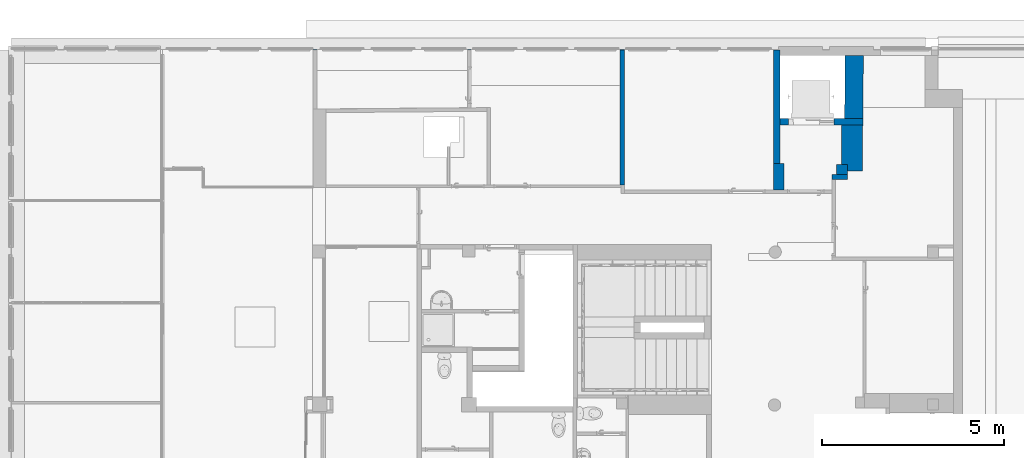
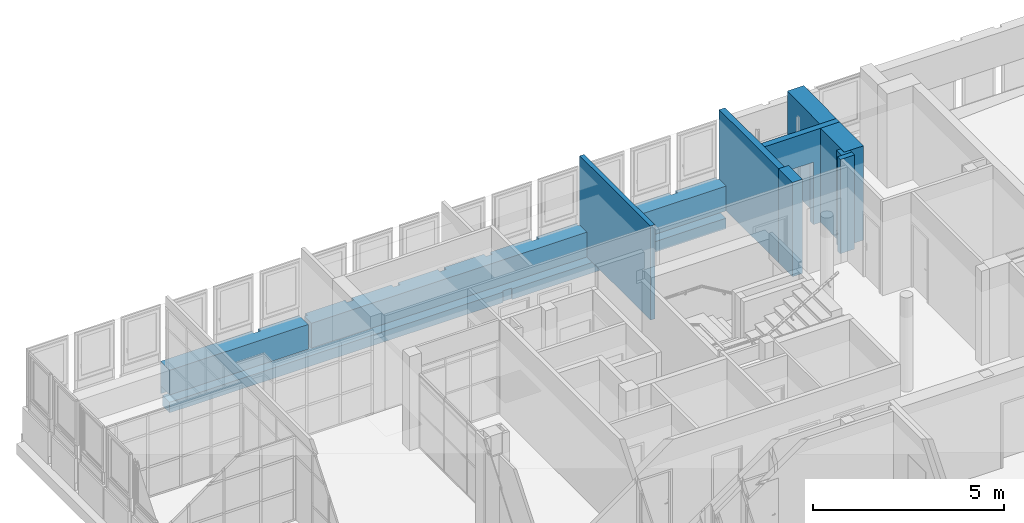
# One storey, part 80 of 97: 9 walls, 1 opening.
"""IFC4 building model written with IfcOpenShell, lengths in metres."""

from ifc_helpers import new_model, entity, si_unit, converted_unit, derived_unit, direction, frame, origin, place, context, subcontext, project, spatial, indexed_curve, outline, extrude, polygons, material, layer, layer_set, type_object, element, save


model = new_model("IFC4")

# Units and contexts
model_context = context("Model", 3, precision=1e-05, world=origin(), true_north=direction((6.12303176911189e-17, 1.0)))
body_context = subcontext(model_context, "Body", "Model", "MODEL_VIEW")
ifc_project = project(units=[si_unit("LENGTHUNIT", "METRE"), si_unit("AREAUNIT", "SQUARE_METRE"), si_unit("VOLUMEUNIT", "CUBIC_METRE"), converted_unit("PLANEANGLEUNIT", "DEGREE", entity("IfcRatioMeasure", 0.0174532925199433), si_unit("PLANEANGLEUNIT", "RADIAN"), dimensions=[0, 0, 0, 0, 0, 0, 0]), si_unit("MASSUNIT", "GRAM", prefix="KILO"), derived_unit("MASSDENSITYUNIT", [(si_unit("MASSUNIT", "GRAM", prefix="KILO"), 1), (si_unit("LENGTHUNIT", "METRE"), -3)]), derived_unit("MOMENTOFINERTIAUNIT", [(si_unit("LENGTHUNIT", "METRE"), 4)]), si_unit("TIMEUNIT", "SECOND"), si_unit("FREQUENCYUNIT", "HERTZ"), si_unit("THERMODYNAMICTEMPERATUREUNIT", "DEGREE_CELSIUS"), derived_unit("THERMALTRANSMITTANCEUNIT", [(si_unit("MASSUNIT", "GRAM", prefix="KILO"), 1), (si_unit("THERMODYNAMICTEMPERATUREUNIT", "KELVIN"), -1), (si_unit("TIMEUNIT", "SECOND"), -3)]), derived_unit("VOLUMETRICFLOWRATEUNIT", [(si_unit("LENGTHUNIT", "METRE"), 3), (si_unit("TIMEUNIT", "SECOND"), -1)]), si_unit("ELECTRICCURRENTUNIT", "AMPERE"), si_unit("ELECTRICVOLTAGEUNIT", "VOLT"), si_unit("POWERUNIT", "WATT"), si_unit("FORCEUNIT", "NEWTON", prefix="KILO"), si_unit("ILLUMINANCEUNIT", "LUX"), si_unit("LUMINOUSFLUXUNIT", "LUMEN"), si_unit("LUMINOUSINTENSITYUNIT", "CANDELA"), derived_unit("USERDEFINED", [(si_unit("MASSUNIT", "GRAM", prefix="KILO"), -1), (si_unit("LENGTHUNIT", "METRE"), -2), (si_unit("TIMEUNIT", "SECOND"), 3), (si_unit("LUMINOUSFLUXUNIT", "LUMEN"), 1)]), derived_unit("LINEARVELOCITYUNIT", [(si_unit("LENGTHUNIT", "METRE"), 1), (si_unit("TIMEUNIT", "SECOND"), -1)]), si_unit("PRESSUREUNIT", "PASCAL"), derived_unit("USERDEFINED", [(si_unit("LENGTHUNIT", "METRE"), -2), (si_unit("MASSUNIT", "GRAM", prefix="KILO"), 1), (si_unit("TIMEUNIT", "SECOND"), -2)]), derived_unit("LINEARFORCEUNIT", [(si_unit("MASSUNIT", "GRAM", prefix="KILO"), 1), (si_unit("LENGTHUNIT", "METRE"), 1), (si_unit("TIMEUNIT", "SECOND"), -2), (si_unit("LENGTHUNIT", "METRE"), -1)]), derived_unit("PLANARFORCEUNIT", [(si_unit("MASSUNIT", "GRAM", prefix="KILO"), 1), (si_unit("LENGTHUNIT", "METRE"), 1), (si_unit("TIMEUNIT", "SECOND"), -2), (si_unit("LENGTHUNIT", "METRE"), -2)])], contexts=[model_context])

# Site, building, storey
site_placement = place(None, origin())
site = spatial("IfcSite", under=ifc_project, at=site_placement, Name="Default", CompositionType="ELEMENT")
building_placement = place(site_placement, origin())
building = spatial("IfcBuilding", under=site, at=building_placement, Name="HOTEL CONSULAIRE BOULOGNE SUR MER", CompositionType="ELEMENT")
storey_placement = place(building_placement, frame((0.0, 0.0, 3.62152697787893)))
storey = spatial("IfcBuildingStorey", under=building, at=storey_placement, Name="Niveau 1", CompositionType="ELEMENT", Elevation=3.62152697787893)

# Walls
ifc_material = material(Name="Mur par défaut", Category="Divers")
ifc_layer_1 = layer(ifc_material, 0.18, Name="Mur par défaut", Category="Divers")
ifc_layer_set_1 = layer_set([ifc_layer_1], Name="Mur de base:Générique - Int.180")
wall_type_1 = type_object("IfcWallType", Name="Mur de base:Générique - Int.180", PredefinedType="NOTDEFINED", material=ifc_layer_set_1)
wall_1_placement = place(storey_placement, frame((7.21898026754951, -10.0856685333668, 0.0), z_axis=(0.0, 0.0, 1.0), x_axis=(0.0, -1.0, 0.0)))
element("IfcWall", 1, at=wall_1_placement, inside=storey, type_object=wall_type_1, material=ifc_layer_set_1, Name="Mur de base:Générique - Int.180", ObjectType="Mur de base:Générique - Int.180", PredefinedType="NOTDEFINED", context=body_context, shape_type="Tessellation", body=[
    polygons([(3.11768673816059, -0.09, 3.01021454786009), (0.0, -0.0899999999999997, 3.01021454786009), (0.0, -0.0899999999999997, 5.41433564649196e-16), (3.11768673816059, -0.09, 5.41433564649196e-16), (-2.16573425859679e-15, 0.0900000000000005, 3.01021454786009), (1.88512277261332, 0.0900000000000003, 3.01021454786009), (2.06512277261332, 0.0900000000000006, 3.01021454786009), (3.11768673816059, 0.0900000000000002, 3.01021454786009), (3.11768673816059, 0.0900000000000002, 5.41433564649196e-16), (2.06512277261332, 0.0900000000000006, 5.41433564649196e-16), (1.88512277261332, 0.0900000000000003, 5.41433564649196e-16), (-2.16573425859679e-15, 0.0900000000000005, 5.41433564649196e-16)], [[[2, 3, 4, 1]], [[9, 10, 11, 12, 5, 6, 7, 8]], [[1, 4, 9, 8]], [[2, 1, 8, 7, 6, 5]], [[3, 2, 5, 12]], [[10, 9, 4, 3, 12, 11]]], closed=True),
])
wall_2_placement = place(storey_placement, frame((9.58796228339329, -12.0607913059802, 0.0), z_axis=(0.0, 0.0, 1.0), x_axis=(-1.0, 0.0, 0.0)))
element("IfcWall", 2, at=wall_2_placement, inside=storey, type_object=wall_type_1, material=ifc_layer_set_1, Name="Mur de base:Générique - Int.180", ObjectType="Mur de base:Générique - Int.180", PredefinedType="NOTDEFINED", context=body_context, shape_type="Tessellation", body=[
    polygons([(2.27898201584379, -0.0900000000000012, -5.41433564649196e-16), (2.04798201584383, -0.0900000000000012, -5.41433564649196e-16), (2.04798201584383, 0.089999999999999, -5.41433564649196e-16), (2.27898201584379, 0.089999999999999, -5.41433564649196e-16), (2.27898201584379, -0.0900000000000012, 3.01021454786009), (0.500023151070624, -0.0900000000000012, 3.01021454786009), (1.3051424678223e-17, -0.0900000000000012, 3.01021454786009), (1.3051424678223e-17, -0.0900000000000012, -5.41433564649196e-16), (0.500023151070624, -0.0900000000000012, -5.41433564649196e-16), (0.792975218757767, -0.089999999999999, 0.0), (0.792975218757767, -0.089999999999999, 2.0), (2.04798201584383, -0.0900000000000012, 2.0), (0.00173218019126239, 0.089999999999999, 3.01021454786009), (2.27898201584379, 0.089999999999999, 3.01021454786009), (2.04798201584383, 0.089999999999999, 2.0), (0.792975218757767, 0.0900000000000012, 2.0), (0.792975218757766, 0.0900000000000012, -5.41433564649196e-16), (0.581759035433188, 0.089999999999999, -5.41433564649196e-16), (0.00173218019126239, 0.089999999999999, -5.41433564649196e-16)], [[[2, 3, 4, 1]], [[12, 11, 16, 15]], [[9, 8, 19, 18, 17, 10]], [[7, 8, 9, 10, 11, 12, 2, 1, 5, 6]], [[4, 3, 15, 16, 17, 18, 19, 13, 14]], [[6, 5, 14, 13, 7]], [[1, 4, 14, 5]], [[11, 10, 17, 16]], [[2, 12, 15, 3]], [[13, 19, 8, 7]]], closed=True),
])

# Wall, opening
ifc_layer_2 = layer(ifc_material, 0.13, Name="Mur par défaut", Category="Divers")
ifc_layer_set_2 = layer_set([ifc_layer_2], Name="Mur de base:Générique - Int. 130 mm")
wall_type_2 = type_object("IfcWallType", Name="Mur de base:Générique - Int. 130 mm", PredefinedType="NOTDEFINED", material=ifc_layer_set_2)
wall_3_placement = place(storey_placement, frame((2.9792977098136, -13.7909141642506, 0.0), z_axis=(0.0, 0.0, 1.0), x_axis=(0.0, 1.0, 0.0)))
wall_3 = element("IfcWall", 3, at=wall_3_placement, inside=storey, type_object=wall_type_2, material=ifc_layer_set_2, Name="Mur de base:Générique - Int. 130 mm", ObjectType="Mur de base:Générique - Int. 130 mm", PredefinedType="NOTDEFINED", context=body_context, shape_type="Tessellation", body=[
    polygons([(3.70524563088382, -0.0650000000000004, 3.0102145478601), (0.0, -0.0650000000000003, 3.0102145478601), (0.0, -0.0650000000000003, 8.66293703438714e-15), (3.33558999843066, -0.0650000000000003, 8.66293703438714e-15), (3.33558999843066, -0.0650000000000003, 0.791612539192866), (3.70524563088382, -0.0650000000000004, 0.791612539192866), (2.16573425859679e-15, 0.0649999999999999, 3.0102145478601), (3.70524563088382, 0.0649999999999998, 3.0102145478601), (3.70524563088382, 0.0649999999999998, 0.791612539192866), (3.33558999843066, 0.0649999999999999, 0.791612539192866), (3.33558999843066, 0.0649999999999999, 8.66293703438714e-15), (2.16573425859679e-15, 0.0649999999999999, -5.41433564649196e-16), (2.16573425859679e-15, 0.0350000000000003, 3.0102145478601), (2.16573425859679e-15, 0.0350000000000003, 8.66293703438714e-15)], [[[2, 3, 4, 5, 6, 1]], [[10, 11, 12, 7, 8, 9]], [[14, 3, 2, 13, 7, 12]], [[2, 1, 8, 7, 13]], [[5, 4, 11, 10]], [[1, 6, 9, 8]], [[6, 5, 10, 9]], [[11, 4, 3, 14, 12]]], closed=True),
])
opening_placement = place(wall_3_placement, origin())
element("IfcOpeningElement", 4, at=opening_placement, cuts=wall_3, Name="Mur de base:Générique - Int. 130 mm", ObjectType="Opening", PredefinedType="OPENING", context=body_context, shape_type="SweptSolid", body=[
    extrude(outline(indexed_curve([(-0.184827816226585, -0.413306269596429), (0.184827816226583, -0.413306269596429), (0.184827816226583, 0.413306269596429), (-0.184827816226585, 0.413306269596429), (-0.184827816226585, -0.413306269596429)], self_intersect=False)), frame((3.52041781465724, 0.0650000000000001, 0.378306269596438), z_axis=(0.0, -1.0, 0.0), x_axis=(-1.0, 0.0, 0.0)), (0.0, 0.0, 1.0), 0.13),
])

# Walls
ifc_layer_3 = layer(ifc_material, 0.15, Name="Mur par défaut", Category="Divers")
ifc_layer_set_3 = layer_set([ifc_layer_3], Name="Mur de base:Générique - Int. 150 mm")
wall_type_3 = type_object("IfcWallType", Name="Mur de base:Générique - Int. 150 mm", PredefinedType="NOTDEFINED", material=ifc_layer_set_3)
wall_4_placement = place(storey_placement, frame((8.73563829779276, -13.5765186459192, 0.0)))
element("IfcWall", 5, at=wall_4_placement, inside=storey, type_object=wall_type_3, material=ifc_layer_set_3, Name="Mur de base:Générique - Int. 150 mm", ObjectType="Mur de base:Générique - Int. 150 mm", PredefinedType="NOTDEFINED", context=body_context, shape_type="Tessellation", body=[
    polygons([(0.433714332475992, -0.0750000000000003, 3.01321454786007), (0.0, -0.0750000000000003, 3.01321454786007), (0.0, -0.0750000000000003, 3.0102145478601), (0.0, -0.0750000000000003, 5.41433564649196e-16), (0.1, -0.0750000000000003, 5.41433564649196e-16), (0.433714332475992, -0.0750000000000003, 5.41433564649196e-16), (0.0, 0.0750000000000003, 3.01321454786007), (0.433714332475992, 0.0750000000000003, 3.01321454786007), (0.433714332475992, 0.0750000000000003, 3.0102145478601), (0.433714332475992, 0.0750000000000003, 5.41433564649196e-16), (0.133714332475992, 0.0750000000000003, 5.41433564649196e-16), (0.0, 0.0750000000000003, 5.41433564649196e-16)], [[[3, 4, 5, 6, 1, 2]], [[9, 10, 11, 12, 7, 8]], [[2, 1, 8, 7]], [[7, 12, 4, 3, 2]], [[1, 6, 10, 9, 8]], [[11, 10, 6, 5, 4, 12]]], closed=True),
])
ifc_layer_4 = layer(ifc_material, 0.3, Name="Mur par défaut", Category="Divers")
ifc_layer_set_4 = layer_set([ifc_layer_4], Name="Mur de base:Générique - Int. 300 mm")
wall_type_4 = type_object("IfcWallType", Name="Mur de base:Générique - Int. 300 mm", PredefinedType="NOTDEFINED", material=ifc_layer_set_4)
wall_5_placement = place(storey_placement, frame((7.2789802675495, -13.2033552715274, 0.0), z_axis=(0.0, 0.0, 1.0), x_axis=(0.0, -1.0, 0.0)))
element("IfcWall", 6, at=wall_5_placement, inside=storey, type_object=wall_type_4, material=ifc_layer_set_4, Name="Mur de base:Générique - Int. 300 mm", ObjectType="Mur de base:Générique - Int. 300 mm", PredefinedType="NOTDEFINED", context=body_context, shape_type="Tessellation", body=[
    polygons([(0.727428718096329, -0.15, 3.01021454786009), (2.16573425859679e-15, -0.15, 3.01021454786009), (2.16573425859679e-15, -0.15, 5.41433564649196e-16), (0.727428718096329, -0.15, 5.41433564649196e-16), (0.0, 0.15, 3.01021454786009), (0.727428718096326, 0.15, 3.01021454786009), (0.727428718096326, 0.15, 5.41433564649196e-16), (0.0, 0.15, 5.41433564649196e-16), (0.0, 0.0299999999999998, 3.01021454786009), (0.0, 0.0299999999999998, 5.41433564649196e-16)], [[[2, 3, 4, 1]], [[6, 7, 8, 5]], [[2, 1, 6, 5, 9]], [[3, 2, 9, 5, 8, 10]], [[4, 7, 6, 1]], [[10, 8, 7, 4, 3]]], closed=True),
])
wall_6_placement = place(storey_placement, frame((9.01935263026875, -13.5015186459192, 0.0), z_axis=(0.0, 0.0, 1.0), x_axis=(0.0, 1.0, 0.0)))
element("IfcWall", 7, at=wall_6_placement, inside=storey, type_object=wall_type_4, material=ifc_layer_set_4, Name="Mur de base:Générique - Int. 300 mm", ObjectType="Mur de base:Générique - Int. 300 mm", PredefinedType="NOTDEFINED", context=body_context, shape_type="Tessellation", body=[
    polygons([(0.269999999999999, -0.150000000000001, 3.01021454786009), (0.0923183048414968, -0.150000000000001, 3.01021454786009), (0.0, -0.150000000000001, 3.01021454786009), (0.0, -0.150000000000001, 0.0), (0.0923183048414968, -0.150000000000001, 0.0), (0.269999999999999, -0.150000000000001, 0.0), (0.0, 0.149999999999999, 3.01021454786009), (0.269999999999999, 0.149999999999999, 3.01021454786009), (0.269999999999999, 0.149999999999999, 0.0), (0.0, 0.149999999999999, 0.0), (0.269999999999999, 0.0235494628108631, 3.0102145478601), (0.269999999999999, 0.0235494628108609, 0.0)], [[[2, 3, 4, 5, 6, 1]], [[8, 9, 10, 7]], [[1, 6, 12, 9, 8, 11]], [[2, 1, 11, 8, 7, 3]], [[10, 4, 3, 7]], [[5, 4, 10, 9, 12, 6]]], closed=True),
])
ifc_layer_5 = layer(ifc_material, 0.48, Name="Mur par défaut", Category="Divers")
ifc_layer_set_5 = layer_set([ifc_layer_5], Name="Mur de base:Générique - Ext.480 mm")
wall_type_5 = type_object("IfcWallType", Name="Mur de base:Générique - Ext.480 mm", PredefinedType="NOTDEFINED", material=ifc_layer_set_5)
wall_7_placement = place(storey_placement, frame((-9.69962464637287, -10.2153241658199, -0.570400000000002)))
element("IfcWall", 8, at=wall_7_placement, inside=storey, type_object=wall_type_5, material=ifc_layer_set_5, Name="Mur de base:Générique - Ext.480 mm", ObjectType="Mur de base:Générique - Ext.480 mm", PredefinedType="NOTDEFINED", context=body_context, shape_type="Tessellation", body=[
    polygons([(16.8286049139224, -0.24, 0.0), (16.8286049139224, -0.24, 0.335400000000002), (10.3561248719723, -0.24, 0.335400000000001), (10.3561248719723, -0.24, 0.0), (16.8286049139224, 0.140691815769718, 0.0), (16.8286049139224, 0.140691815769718, 0.335400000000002), (1.33649330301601e-15, -0.24, 0.335400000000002), (2.53626173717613e-16, -0.24, 0.0), (10.0861248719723, -0.24, 0.0), (10.0861248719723, -0.24, 0.335400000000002), (1.99470641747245e-15, 0.140691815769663, 0.0), (4.19564398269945, 0.140691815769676, 0.0), (4.53564398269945, 0.140691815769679, 0.0), (8.18864398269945, 0.140691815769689, 0.0), (8.52864398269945, 0.140691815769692, 0.0), (10.3561248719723, -0.19561057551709, 0.0), (10.0861248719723, -0.19561057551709, 0.0), (1.99470641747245e-15, 0.140691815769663, 0.335400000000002), (10.3561248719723, -0.19561057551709, 0.335400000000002), (10.0861248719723, -0.19561057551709, 0.335400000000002)], [[[3, 4, 1, 2]], [[7, 8, 9, 10]], [[17, 16, 19, 20]], [[2, 1, 5, 6]], [[17, 20, 10, 9]], [[9, 8, 11, 12, 13, 14, 15, 5, 1, 4, 16, 17]], [[8, 7, 18, 11]], [[16, 4, 3, 19]], [[6, 5, 15, 14, 13, 12, 11, 18]], [[20, 19, 3, 2, 6, 18, 7, 10]]], closed=True),
    polygons([(16.8286049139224, -0.24, 0.570400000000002), (16.8286049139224, -0.24, 1.36201253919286), (4.28985146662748, -0.24, 1.36201253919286), (4.28985146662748, -0.24, 0.570400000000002), (4.37544981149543, 0.24, 0.34), (4.37544981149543, 0.24, 1.36201253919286), (5.58425312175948, 0.239999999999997, 1.36201253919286), (5.58425312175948, 0.239999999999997, 0.34), (5.77544981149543, 0.24, 0.34), (5.77544981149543, 0.24, 1.36201253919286), (6.98425312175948, 0.24, 1.36201253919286), (6.98425312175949, 0.24, 0.34), (7.17544981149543, 0.24, 0.34), (7.17544981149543, 0.24, 1.36201253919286), (8.38425312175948, 0.24, 1.36201253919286), (8.38425312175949, 0.24, 0.34), (8.57544981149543, 0.24, 0.34), (8.57544981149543, 0.24, 1.36201253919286), (9.78160466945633, 0.24, 1.36201253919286), (9.78160466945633, 0.24, 0.34), (9.97280135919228, 0.239999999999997, 0.34), (9.97280135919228, 0.239999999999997, 1.36201253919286), (11.1816046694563, 0.24, 1.36201253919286), (11.1816046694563, 0.24, 0.34), (11.3728013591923, 0.24, 0.34), (11.3728013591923, 0.24, 1.36201253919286), (12.5816046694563, 0.24, 1.36201253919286), (12.5816046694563, 0.24, 0.34), (12.7728013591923, 0.24, 0.34), (12.7728013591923, 0.24, 1.36201253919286), (13.9816046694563, 0.24, 1.36201253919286), (13.9816046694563, 0.24, 0.34), (14.1728013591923, 0.24, 0.34), (14.1728013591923, 0.24, 1.36201253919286), (15.3816046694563, 0.24, 1.36201253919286), (15.3816046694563, 0.24, 0.34), (5.58030689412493, 0.213691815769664, 0.34), (4.37939603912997, 0.213691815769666, 0.34), (6.98030689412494, 0.213691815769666, 0.34), (5.77939603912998, 0.213691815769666, 0.34), (8.38030689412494, 0.213691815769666, 0.34), (7.17939603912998, 0.213691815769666, 0.34), (9.77765844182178, 0.213691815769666, 0.34), (8.57939603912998, 0.213691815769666, 0.34), (11.1776584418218, 0.213691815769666, 0.34), (9.97674758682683, 0.213691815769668, 0.34), (12.5776584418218, 0.213691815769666, 0.34), (11.3767475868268, 0.213691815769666, 0.34), (13.9776584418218, 0.213691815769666, 0.34), (12.7767475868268, 0.213691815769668, 0.34), (15.3776584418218, 0.213691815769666, 0.34), (14.1767475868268, 0.213691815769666, 0.34), (4.37985146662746, 0.129655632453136, 1.36201253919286), (4.37985146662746, 0.129655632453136, 0.570400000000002), (4.28985146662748, 0.129655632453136, 0.570400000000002), (4.28985146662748, 0.129655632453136, 1.36201253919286), (16.7776584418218, 0.213691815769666, 0.570400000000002), (15.5767475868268, 0.213691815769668, 0.570400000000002), (15.5767475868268, 0.213691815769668, 0.34), (16.7776584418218, 0.213691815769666, 0.34), (15.3776584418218, 0.213691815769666, 0.570400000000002), (14.1767475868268, 0.213691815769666, 0.570400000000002), (13.9776584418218, 0.213691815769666, 0.570400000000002), (12.7767475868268, 0.213691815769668, 0.570400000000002), (12.5776584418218, 0.213691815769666, 0.570400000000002), (11.3767475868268, 0.213691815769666, 0.570400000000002), (11.1776584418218, 0.213691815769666, 0.570400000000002), (9.97674758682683, 0.213691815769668, 0.570400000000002), (9.77765844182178, 0.213691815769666, 0.570400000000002), (8.57939603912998, 0.213691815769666, 0.570400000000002), (8.38030689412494, 0.213691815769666, 0.570400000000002), (7.17939603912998, 0.213691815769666, 0.570400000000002), (6.98030689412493, 0.213691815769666, 0.570400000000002), (5.77939603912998, 0.213691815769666, 0.570400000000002), (5.58030689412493, 0.213691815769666, 0.570400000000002), (4.37939603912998, 0.213691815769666, 0.570400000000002), (15.5728013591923, 0.24, 0.34), (15.5728013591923, 0.24, 1.36201253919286), (16.7816046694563, 0.24, 1.36201253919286), (16.7816046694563, 0.24, 0.34), (16.8286049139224, 0.129655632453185, 1.36201253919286), (16.8286049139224, 0.129655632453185, 0.570400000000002), (4.37985146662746, 0.210655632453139, 1.36201253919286), (16.7772030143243, 0.129655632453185, 1.36201253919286), (16.7772030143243, 0.210655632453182, 1.36201253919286), (15.5772030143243, 0.210655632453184, 1.36201253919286), (15.5772030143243, 0.129655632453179, 1.36201253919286), (15.3772030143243, 0.129655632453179, 1.36201253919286), (15.3772030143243, 0.210655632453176, 1.36201253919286), (14.1772030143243, 0.210655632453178, 1.36201253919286), (14.1772030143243, 0.129655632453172, 1.36201253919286), (13.9772030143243, 0.129655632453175, 1.36201253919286), (13.9772030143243, 0.210655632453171, 1.36201253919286), (12.7772030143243, 0.210655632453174, 1.36201253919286), (12.7772030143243, 0.129655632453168, 1.36201253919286), (12.5772030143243, 0.129655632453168, 1.36201253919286), (12.5772030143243, 0.210655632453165, 1.36201253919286), (11.3772030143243, 0.210655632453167, 1.36201253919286), (11.3772030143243, 0.129655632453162, 1.36201253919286), (11.1772030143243, 0.129655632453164, 1.36201253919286), (11.1772030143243, 0.210655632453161, 1.36201253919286), (9.9772030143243, 0.210655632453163, 1.36201253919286), (9.9772030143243, 0.129655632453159, 1.36201253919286), (9.77720301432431, 0.129655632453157, 1.36201253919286), (9.77720301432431, 0.210655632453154, 1.36201253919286), (8.57985146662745, 0.210655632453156, 1.36201253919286), (8.57985146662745, 0.129655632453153, 1.36201253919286), (8.37985146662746, 0.129655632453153, 1.36201253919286), (8.37985146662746, 0.21065563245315, 1.36201253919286), (7.17985146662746, 0.21065563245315, 1.36201253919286), (7.17985146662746, 0.129655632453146, 1.36201253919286), (6.97985146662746, 0.129655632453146, 1.36201253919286), (6.97985146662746, 0.210655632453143, 1.36201253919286), (5.77985146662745, 0.210655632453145, 1.36201253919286), (5.77985146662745, 0.129655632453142, 1.36201253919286), (5.57985146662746, 0.12965563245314, 1.36201253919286), (5.57985146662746, 0.210655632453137, 1.36201253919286), (4.37985146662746, 0.210655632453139, 0.570400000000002), (5.57985146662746, 0.210655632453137, 0.570400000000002), (5.57985146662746, 0.12965563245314, 0.570400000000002), (5.77985146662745, 0.129655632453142, 0.570400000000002), (5.77985146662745, 0.210655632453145, 0.570400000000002), (6.97985146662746, 0.210655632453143, 0.570400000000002), (6.97985146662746, 0.129655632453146, 0.570400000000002), (7.17985146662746, 0.129655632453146, 0.570400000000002), (7.17985146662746, 0.21065563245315, 0.570400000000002), (8.37985146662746, 0.21065563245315, 0.570400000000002), (8.37985146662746, 0.129655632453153, 0.570400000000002), (8.57985146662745, 0.129655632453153, 0.570400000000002), (8.57985146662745, 0.210655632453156, 0.570400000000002), (9.77720301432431, 0.210655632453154, 0.570400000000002), (9.77720301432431, 0.129655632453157, 0.570400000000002), (9.9772030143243, 0.129655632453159, 0.570400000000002), (9.9772030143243, 0.210655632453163, 0.570400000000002), (11.1772030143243, 0.210655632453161, 0.570400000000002), (11.1772030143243, 0.129655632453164, 0.570400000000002), (11.3772030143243, 0.129655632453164, 0.570400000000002), (11.3772030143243, 0.210655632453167, 0.570400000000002), (12.5772030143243, 0.210655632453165, 0.570400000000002), (12.5772030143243, 0.129655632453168, 0.570400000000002), (12.7772030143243, 0.12965563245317, 0.570400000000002), (12.7772030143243, 0.210655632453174, 0.570400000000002), (13.9772030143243, 0.210655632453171, 0.570400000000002), (13.9772030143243, 0.129655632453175, 0.570400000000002), (14.1772030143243, 0.129655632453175, 0.570400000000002), (14.1772030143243, 0.210655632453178, 0.570400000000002), (15.3772030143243, 0.210655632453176, 0.570400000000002), (15.3772030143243, 0.129655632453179, 0.570400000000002), (15.5772030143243, 0.129655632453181, 0.570400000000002), (15.5772030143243, 0.210655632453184, 0.570400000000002), (16.7772030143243, 0.210655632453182, 0.570400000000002), (16.7772030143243, 0.129655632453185, 0.570400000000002)], [[[3, 4, 1, 2]], [[58, 59, 60, 57]], [[62, 52, 51, 61]], [[64, 50, 49, 63]], [[66, 48, 47, 65]], [[68, 46, 45, 67]], [[70, 44, 43, 69]], [[72, 42, 41, 71]], [[73, 74, 40, 39]], [[76, 38, 37, 75]], [[7, 8, 5, 6]], [[11, 12, 9, 10]], [[15, 16, 13, 14]], [[19, 20, 17, 18]], [[23, 24, 21, 22]], [[27, 28, 25, 26]], [[31, 32, 29, 30]], [[35, 36, 33, 34]], [[55, 56, 53, 54]], [[79, 80, 77, 78]], [[120, 116, 115, 121]], [[124, 112, 111, 125]], [[128, 108, 107, 129]], [[132, 104, 103, 133]], [[136, 100, 99, 137]], [[140, 96, 95, 141]], [[144, 92, 91, 145]], [[148, 88, 87, 149]], [[82, 152, 84, 81]], [[5, 8, 37, 38]], [[9, 12, 39, 40]], [[13, 16, 41, 42]], [[17, 20, 43, 44]], [[21, 24, 45, 46]], [[25, 28, 47, 48]], [[29, 32, 49, 50]], [[33, 36, 51, 52]], [[77, 80, 60, 59]], [[144, 145, 146, 62, 61, 147, 148, 149, 150, 58, 57, 151, 152, 82, 1, 4, 55, 54, 118, 76, 75, 119, 120, 121, 122, 74, 73, 123, 124, 125, 126, 72, 71, 127, 128, 129, 130, 70, 69, 131, 132, 133, 134, 68, 67, 135, 136, 137, 138, 66, 65, 139, 140, 141, 142, 64, 63, 143]], [[2, 1, 82, 81]], [[119, 117, 116, 120]], [[123, 113, 112, 124]], [[127, 109, 108, 128]], [[131, 105, 104, 132]], [[135, 101, 100, 136]], [[139, 97, 96, 140]], [[143, 93, 92, 144]], [[147, 89, 88, 148]], [[151, 85, 84, 152]], [[2, 81, 84, 85, 79, 78, 86, 87, 88, 89, 35, 34, 90, 91, 92, 93, 31, 30, 94, 95, 96, 97, 27, 26, 98, 99, 100, 101, 23, 22, 102, 103, 104, 105, 19, 18, 106, 107, 108, 109, 15, 14, 110, 111, 112, 113, 11, 10, 114, 115, 116, 117, 7, 6, 83, 53, 56, 3]], [[54, 53, 83, 118]], [[121, 115, 114, 122]], [[125, 111, 110, 126]], [[129, 107, 106, 130]], [[133, 103, 102, 134]], [[137, 99, 98, 138]], [[141, 95, 94, 142]], [[145, 91, 90, 146]], [[149, 87, 86, 150]], [[55, 4, 3, 56]], [[76, 118, 83, 6, 5, 38]], [[74, 122, 114, 10, 9, 40]], [[72, 126, 110, 14, 13, 42]], [[70, 130, 106, 18, 17, 44]], [[68, 134, 102, 22, 21, 46]], [[66, 138, 98, 26, 25, 48]], [[64, 142, 94, 30, 29, 50]], [[62, 146, 90, 34, 33, 52]], [[58, 150, 86, 78, 77, 59]], [[75, 37, 8, 7, 117, 119]], [[73, 39, 12, 11, 113, 123]], [[71, 41, 16, 15, 109, 127]], [[69, 43, 20, 19, 105, 131]], [[67, 45, 24, 23, 101, 135]], [[65, 47, 28, 27, 97, 139]], [[63, 49, 32, 31, 93, 143]], [[61, 51, 36, 35, 89, 147]], [[57, 60, 80, 79, 85, 151]]], closed=True),
    polygons([(1.33649330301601e-15, -0.24, 1.36201253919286), (2.4193604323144e-15, -0.24, 0.570400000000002), (4.18985146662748, -0.24, 0.570400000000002), (4.18985146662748, -0.24, 1.36201253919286), (1.60145081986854e-15, 0.24, 0.34), (5.18583690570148e-16, 0.24, 1.36201253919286), (2.76260632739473, 0.24, 1.36201253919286), (2.76260632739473, 0.24, 0.34), (2.95380301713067, 0.24, 0.34), (2.95380301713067, 0.24, 1.36201253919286), (4.18425312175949, 0.24, 1.36201253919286), (4.18425312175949, 0.24, 0.34), (4.18985146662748, 0.129655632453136, 1.36201253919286), (4.17985146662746, 0.129655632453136, 1.36201253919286), (4.17985146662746, 0.210655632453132, 1.36201253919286), (2.95820467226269, 0.210655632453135, 1.36201253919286), (2.9582046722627, 0.129655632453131, 1.36201253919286), (2.7582046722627, 0.129655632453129, 1.36201253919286), (2.7582046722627, 0.210655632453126, 1.36201253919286), (1.70562995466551e-15, 0.213691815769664, 0.34), (1.7056299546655e-15, 0.213691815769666, 0.570400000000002), (2.75866009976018, 0.213691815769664, 0.34), (4.18030689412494, 0.213691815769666, 0.34), (2.95774924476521, 0.213691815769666, 0.34), (2.75866009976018, 0.213691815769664, 0.570400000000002), (2.7582046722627, 0.210655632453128, 0.570400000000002), (2.7582046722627, 0.129655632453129, 0.570400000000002), (2.95820467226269, 0.129655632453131, 0.570400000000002), (2.9582046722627, 0.210655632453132, 0.570400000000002), (2.95774924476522, 0.213691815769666, 0.570400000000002), (4.18030689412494, 0.213691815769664, 0.570400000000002), (4.17985146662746, 0.210655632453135, 0.570400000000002), (4.17985146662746, 0.129655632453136, 0.570400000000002), (4.18985146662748, 0.129655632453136, 0.570400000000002)], [[[1, 2, 3, 4]], [[30, 24, 23, 31]], [[21, 20, 22, 25]], [[7, 8, 5, 6]], [[11, 12, 9, 10]], [[27, 18, 17, 28]], [[33, 14, 13, 34]], [[4, 13, 14, 15, 11, 10, 16, 17, 18, 19, 7, 6, 1]], [[1, 6, 5, 20, 21, 2]], [[28, 17, 16, 29]], [[5, 8, 22, 20]], [[9, 12, 23, 24]], [[33, 34, 3, 2, 21, 25, 26, 27, 28, 29, 30, 31, 32]], [[25, 22, 8, 7, 19, 26]], [[31, 23, 12, 11, 15, 32]], [[26, 19, 18, 27]], [[32, 15, 14, 33]], [[3, 34, 13, 4]], [[30, 29, 16, 10, 9, 24]]], closed=True),
])
ifc_layer_6 = layer(ifc_material, 0.5, Name="Mur par défaut", Category="Divers")
ifc_layer_set_6 = layer_set([ifc_layer_6], Name="Mur de base:Générique - Int.500")
wall_type_6 = type_object("IfcWallType", Name="Mur de base:Générique - Int.500", PredefinedType="NOTDEFINED", material=ifc_layer_set_6)
wall_8_placement = place(storey_placement, frame((9.3379275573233, -11.9731970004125, 0.0), z_axis=(0.0, 0.0, 1.0), x_axis=(0.00962277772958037, 0.999953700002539, 0.0)))
element("IfcWall", 9, at=wall_8_placement, inside=storey, type_object=wall_type_6, material=ifc_layer_set_6, Name="Mur de base:Générique - Int.500", ObjectType="Mur de base:Générique - Int.500", PredefinedType="NOTDEFINED", context=body_context, shape_type="Tessellation", body=[
    polygons([(1.73535887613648, -0.25, 3.01021454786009), (0.00481161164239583, -0.25, 3.01021454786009), (0.00481161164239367, -0.25, 5.41433564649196e-16), (1.73535887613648, -0.25, 5.41433564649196e-16), (2.16573425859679e-15, 0.25, 3.01021454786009), (1.73054726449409, 0.25, 3.01021454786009), (1.73054726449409, 0.25, 5.41433564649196e-16), (2.16573425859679e-15, 0.25, 5.41433564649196e-16)], [[[2, 3, 4, 1]], [[6, 7, 8, 5]], [[2, 1, 6, 5]], [[8, 3, 2, 5]], [[7, 4, 3, 8]], [[1, 4, 7, 6]]], closed=True),
])
ifc_layer_7 = layer(ifc_material, 0.58, Name="Mur par défaut", Category="Divers")
ifc_layer_set_7 = layer_set([ifc_layer_7], Name="Mur de base:Générique - Int.580")
wall_type_7 = type_object("IfcWallType", Name="Mur de base:Générique - Int.580", PredefinedType="NOTDEFINED", material=ifc_layer_set_7)
wall_9_placement = place(storey_placement, frame((9.28409609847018, -13.4103045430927, 0.0), z_axis=(0.0, 0.0, 1.0), x_axis=(0.00962277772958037, 0.999953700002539, 0.0)))
element("IfcWall", 10, at=wall_9_placement, inside=storey, type_object=wall_type_7, material=ifc_layer_set_7, Name="Mur de base:Générique - Int.580", ObjectType="Mur de base:Générique - Int.580", PredefinedType="NOTDEFINED", context=body_context, shape_type="Tessellation", body=[
    polygons([(1.26236229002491, -0.29, 3.01321454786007), (0.0, -0.289999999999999, 3.01321454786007), (0.0, -0.289999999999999, 5.41433564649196e-16), (1.26236229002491, -0.29, 5.41433564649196e-16), (1.26236229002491, -0.29, 3.01021454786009), (2.16573425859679e-15, 0.290000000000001, 3.01321454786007), (1.25678082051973, 0.289999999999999, 3.01321454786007), (1.25678082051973, 0.289999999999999, 5.41433564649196e-16), (0.176003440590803, 0.29, 5.41433564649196e-16), (0.176003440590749, 0.290000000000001, 3.0102145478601), (2.16573425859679e-15, 0.290000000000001, 3.0102145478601), (0.0, 0.114748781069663, 3.0102145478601), (0.0, 0.114748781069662, 5.41433564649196e-16), (0.177673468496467, 0.116458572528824, 3.0102145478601), (0.177673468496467, 0.116458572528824, 5.41433564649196e-16)], [[[2, 3, 4, 5, 1]], [[7, 8, 9, 10, 11, 6]], [[2, 1, 7, 6]], [[3, 2, 6, 11, 12, 13]], [[5, 4, 8, 7, 1]], [[15, 13, 12, 14]], [[9, 15, 14, 10]], [[11, 10, 14, 12]], [[3, 13, 15, 9, 8, 4]]], closed=True),
])

save(model, "model.ifc")
